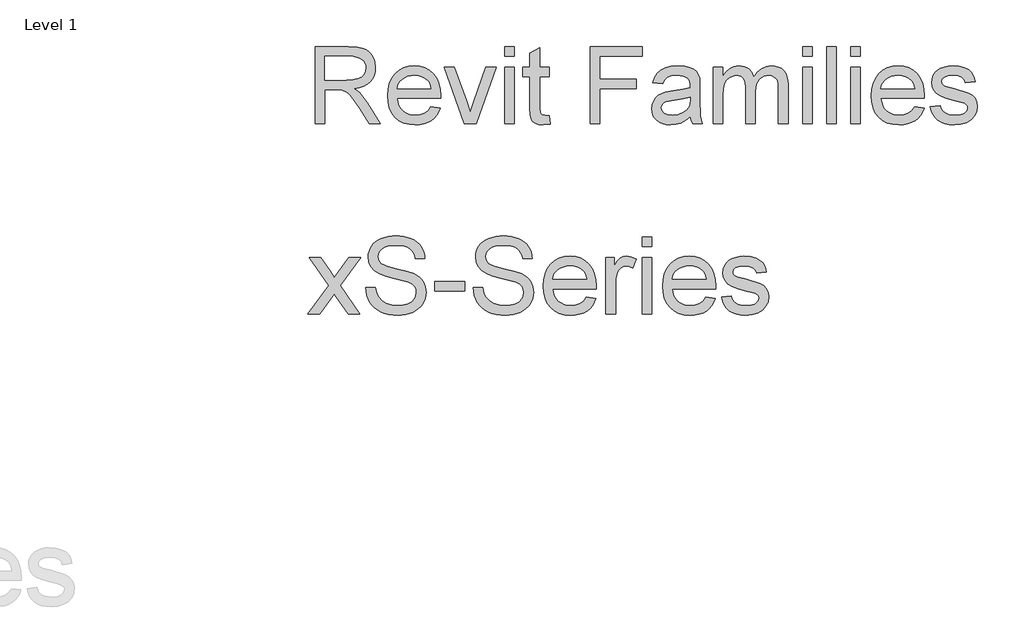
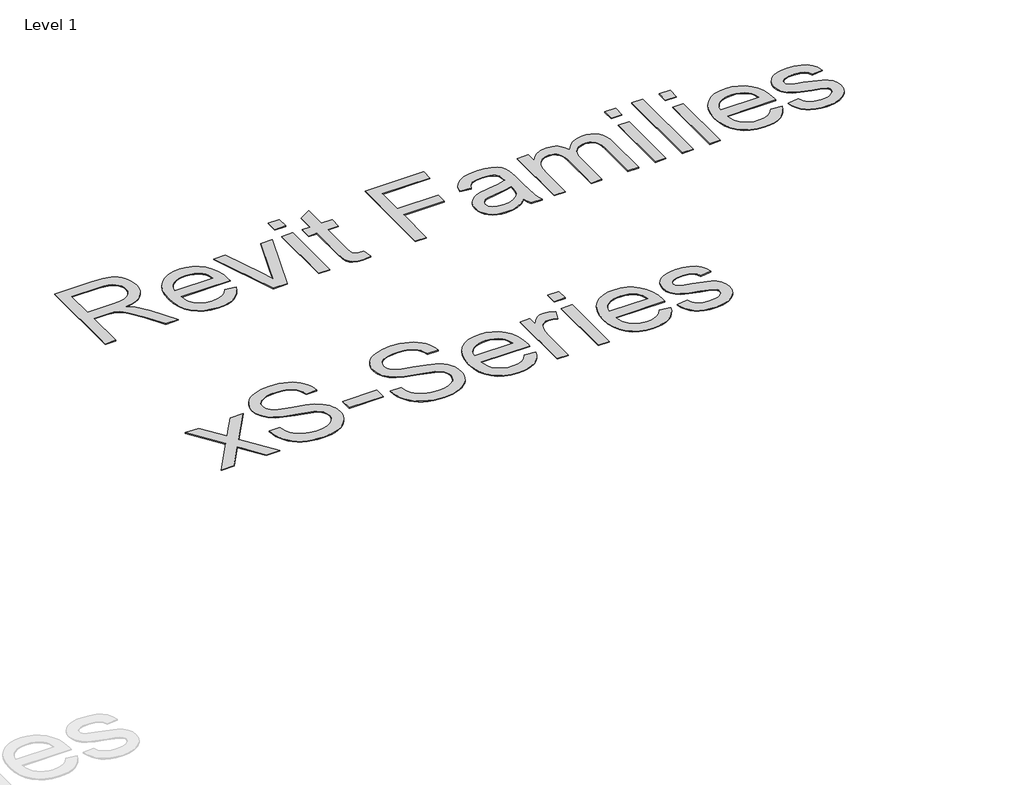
# One storey, part 11 of 12: 1 proxy.
"""IFC4 building model written with IfcOpenShell, lengths in millimetres."""

from ifc_helpers import new_model, si_unit, origin, origin_with_axes, place, context, project, spatial, polyline, outline, extrude, element, save

model = new_model("IFC4")

# Units and contexts
model_context = context("Model", 3, world=origin())
ifc_project = project(units=[si_unit("LENGTHUNIT", "METRE", prefix="MILLI")], contexts=[model_context])

# Site, building, storey
site = spatial("IfcSite", under=ifc_project)
building = spatial("IfcBuilding", under=site)
storey = spatial("IfcBuildingStorey", under=building, Name="Level 1", Elevation=0.0)

# Proxy
placement = place(None, origin())
element("IfcBuildingElementProxy", 1, Name="600mm Arial", ObjectType="600mm Arial", at=placement, inside=storey, context=model_context, shape_type="SweptSolid", body=[
    extrude(outline(polyline([(-11309.2935955, 22041.6162982), (-11309.2935955, 22632.385529), (-11054.7262878, 22632.385529), (-10986.3068167, 22628.401154), (-10936.5291724, 22616.448029), (-10917.3194369, 22606.9468271), (-10900.1469609, 22594.3807213), (-10885.0117446, 22578.7497117), (-10871.9137878, 22560.0537982), (-10861.3443768, 22539.2980891), (-10853.7947974, 22517.4876924), (-10847.755134, 22470.7028367), (-10850.2566364, 22440.3602886), (-10857.7611436, 22412.5057213), (-10870.2686556, 22387.1391347), (-10887.7791724, 22364.260529), (-10910.5180547, 22344.6000722), (-10938.7106628, 22328.8879328), (-10972.356997, 22317.1241107), (-11011.4570571, 22309.3086059), (-10987.1181148, 22293.4071636), (-10969.4859032, 22277.7220674), (-10909.630134, 22201.7124521), (-10811.1205186, 22041.6162982), (-10896.9378263, 22041.6162982), (-10973.8128263, 22164.0682213), (-11029.3416724, 22245.1259136), (-11049.9847013, 22268.7617309), (-11068.3560955, 22283.4191828), (-11103.4762878, 22297.4816828), (-11146.3128263, 22300.0778367), (-11235.4474417, 22300.0778367), (-11235.4474417, 22041.6162982), (-11309.2935955, 22041.6162982)]), holes=[polyline([(-11235.4474417, 22373.9239905), (-11070.1589801, 22373.9239905), (-11022.6890282, 22376.5381732), (-10985.8560955, 22384.3807213), (-10958.1277301, 22397.9744713), (-10937.9714801, 22417.8422597), (-10925.6938359, 22441.8747117), (-10921.6012878, 22467.9624521), (-10923.5529104, 22486.8476684), (-10929.4077782, 22503.9840867), (-10939.1658912, 22519.3717069), (-10952.8272494, 22533.010529), (-10970.7073575, 22544.1793992), (-10993.1217205, 22552.1571636), (-11020.0703383, 22556.9438222), (-11051.5532109, 22558.5393751), (-11235.4474417, 22558.5393751), (-11235.4474417, 22373.9239905)])]), origin_with_axes(), (0.0, 0.0, 1.0), 5.0),
    extrude(outline(polyline([(-10424.005134, 22170.8470674), (-10351.6012878, 22161.6162982), (-10362.7025498, 22132.6168992), (-10377.6890282, 22107.0610097), (-10396.5607229, 22084.9486299), (-10419.317634, 22066.2797597), (-10445.7253864, 22051.4510338), (-10475.5496051, 22040.8590867), (-10508.7902902, 22034.5039184), (-10545.4474417, 22032.385529), (-10591.2677542, 22036.0408775), (-10632.0940763, 22047.0069232), (-10667.926408, 22065.283666), (-10698.7647494, 22090.8711059), (-10723.5634273, 22123.0571035), (-10741.2767686, 22161.1295194), (-10751.9047734, 22205.0883535), (-10755.4474417, 22254.9336059), (-10751.8687157, 22306.4690626), (-10741.1325378, 22351.8927405), (-10723.238908, 22391.2046396), (-10698.1878263, 22424.4047597), (-10667.4306148, 22450.7809617), (-10632.4185955, 22469.6211059), (-10593.1517686, 22480.9251924), (-10549.630134, 22484.6932213), (-10507.5102422, 22480.9342069), (-10469.4197974, 22469.6571636), (-10435.3587998, 22450.8620915), (-10405.3272494, 22424.5489905), (-10380.8125258, 22391.4209857), (-10363.302009, 22352.1812021), (-10352.7956989, 22306.8296396), (-10349.2935955, 22255.3662982), (-10349.7262878, 22235.4624521), (-10681.6012878, 22235.4624521), (-10677.3239441, 22205.994303), (-10668.8188359, 22180.1860097), (-10656.0859633, 22158.0375722), (-10639.1253263, 22139.5489905), (-10618.8744248, 22124.9726684), (-10596.270759, 22114.5610097), (-10571.3143287, 22108.3140146), (-10544.005134, 22106.2316828), (-10504.7022494, 22110.0898559), (-10471.6012878, 22121.6643751), (-10444.7022494, 22141.6763944), (-10424.005134, 22170.8470674)]), holes=[polyline([(-10681.6012878, 22309.3086059), (-10423.1397494, 22309.3086059), (-10433.1277301, 22348.323029), (-10441.7184753, 22363.6655771), (-10452.7070571, 22376.2316828), (-10472.8452782, 22391.3759136), (-10495.7599417, 22402.1932213), (-10521.4510474, 22408.6836059), (-10549.9185955, 22410.8470674), (-10575.8846412, 22409.1208054), (-10599.6962398, 22403.9420194), (-10621.3533912, 22395.3107093), (-10640.8560955, 22383.2268751), (-10657.2217806, 22368.2494112), (-10669.4678744, 22350.9372117), (-10677.5943768, 22331.2902766), (-10681.6012878, 22309.3086059)])]), origin_with_axes(), (0.0, 0.0, 1.0), 5.0),
    extrude(outline(polyline([(-10169.005134, 22041.6162982), (-10321.6012878, 22475.4624521), (-10243.4282109, 22475.4624521), (-10150.9762878, 22215.5586059), (-10123.1397494, 22128.1547597), (-10095.880134, 22210.6547597), (-10002.8512878, 22475.4624521), (-9924.6782109, 22475.4624521), (-10075.3993648, 22041.6162982), (-10169.005134, 22041.6162982)])), origin_with_axes(), (0.0, 0.0, 1.0), 5.0),
    extrude(outline(polyline([(-9860.0628263, 22041.6162982), (-9860.0628263, 22475.4624521), (-9786.2166724, 22475.4624521), (-9786.2166724, 22041.6162982), (-9860.0628263, 22041.6162982)])), origin_with_axes(), (0.0, 0.0, 1.0), 5.0),
    extrude(outline(polyline([(-9860.0628263, 22558.5393751), (-9860.0628263, 22632.385529), (-9786.2166724, 22632.385529), (-9786.2166724, 22558.5393751), (-9860.0628263, 22558.5393751)])), origin_with_axes(), (0.0, 0.0, 1.0), 5.0),
    extrude(outline(polyline([(-9518.5243648, 22103.2028367), (-9509.2935955, 22039.4528367), (-9564.5339801, 22032.385529), (-9599.9786917, 22035.4504328), (-9626.4089801, 22044.6451444), (-9645.0868648, 22058.8158174), (-9657.2743648, 22076.8086059), (-9663.9810955, 22107.7100482), (-9666.2166724, 22160.6066828), (-9666.2166724, 22401.6162982), (-9721.6012878, 22401.6162982), (-9721.6012878, 22475.4624521), (-9666.2166724, 22475.4624521), (-9666.2166724, 22580.8951444), (-9592.3705186, 22624.3086059), (-9592.3705186, 22475.4624521), (-9518.5243648, 22475.4624521), (-9518.5243648, 22401.6162982), (-9592.3705186, 22401.6162982), (-9592.3705186, 22162.7701444), (-9588.4762878, 22124.6932213), (-9575.8560955, 22111.2076444), (-9565.2010474, 22107.4756732), (-9550.6878263, 22106.2316828), (-9518.5243648, 22103.2028367)])), origin_with_axes(), (0.0, 0.0, 1.0), 5.0),
    extrude(outline(polyline([(-9204.6782109, 22041.6162982), (-9204.6782109, 22632.385529), (-8807.755134, 22632.385529), (-8807.755134, 22558.5393751), (-9130.8320571, 22558.5393751), (-9130.8320571, 22383.1547597), (-8853.9089801, 22383.1547597), (-8853.9089801, 22309.3086059), (-9130.8320571, 22309.3086059), (-9130.8320571, 22041.6162982), (-9204.6782109, 22041.6162982)])), origin_with_axes(), (0.0, 0.0, 1.0), 5.0),
    extrude(outline(polyline([(-8438.5243648, 22097.0009136), (-8473.8068167, 22066.7485097), (-8510.1349417, 22046.9528367), (-8548.3380667, 22036.0273559), (-8589.2455186, 22032.385529), (-8622.1256268, 22034.5760338), (-8650.958259, 22041.1475482), (-8675.7434152, 22052.1000722), (-8696.4810955, 22067.4336059), (-8712.855795, 22086.1745915), (-8724.552009, 22107.3494713), (-8731.5697373, 22130.9582453), (-8733.9089801, 22157.0009136), (-8730.3753263, 22187.6138944), (-8719.7743648, 22215.4143751), (-8703.4222013, 22239.2124521), (-8682.6349417, 22257.8182213), (-8658.2058551, 22271.8807213), (-8630.9282109, 22282.0489905), (-8567.0339801, 22293.1547597), (-8491.5291724, 22304.8374521), (-8438.9570571, 22318.5393751), (-8438.5243648, 22334.9816828), (-8443.6084994, 22367.9384136), (-8449.9636676, 22380.1439424), (-8458.8609032, 22389.5009136), (-8474.239509, 22398.8398559), (-8492.9714801, 22405.510529), (-8540.4955186, 22410.8470674), (-8584.4859032, 22407.2953847), (-8615.2070571, 22396.6403367), (-8636.1565763, 22376.9348078), (-8650.8320571, 22346.2316828), (-8724.6782109, 22355.4624521), (-8711.8597013, 22395.8470674), (-8692.7310955, 22427.5778367), (-8665.5075378, 22451.8446636), (-8628.4041724, 22469.8374521), (-8583.0255667, 22480.979279), (-8530.9762878, 22484.6932213), (-8481.0544128, 22481.4119713), (-8441.4810955, 22471.5682213), (-8411.6433551, 22456.7665386), (-8390.9282109, 22438.6114905), (-8377.1902301, 22416.1655771), (-8368.2839801, 22388.4912982), (-8364.6782109, 22323.8759136), (-8364.6782109, 22232.0009136), (-8360.9282109, 22103.7076444), (-8355.3753263, 22071.994904), (-8346.2166724, 22041.6162982), (-8420.0628263, 22041.6162982), (-8431.8897494, 22067.2893751), (-8438.5243648, 22097.0009136)]), holes=[polyline([(-8438.5243648, 22244.6932213), (-8488.1397494, 22232.3975482), (-8557.6589801, 22222.0489905), (-8621.192634, 22210.0778367), (-8637.7250859, 22201.8927405), (-8649.9666724, 22190.6066828), (-8657.5387878, 22177.0850482), (-8660.0628263, 22162.1932213), (-8654.5640282, 22140.2340867), (-8638.067634, 22122.2412982), (-8610.9342205, 22110.2340867), (-8573.5243648, 22106.2316828), (-8533.8609032, 22110.6487501), (-8498.8128263, 22123.8999521), (-8470.3993648, 22143.4251924), (-8450.6397494, 22166.6643751), (-8441.8777301, 22190.6066828), (-8438.9570571, 22223.7797597), (-8438.5243648, 22244.6932213)])]), origin_with_axes(), (0.0, 0.0, 1.0), 5.0),
    extrude(outline(polyline([(-8263.1397494, 22041.6162982), (-8263.1397494, 22475.4624521), (-8189.2935955, 22475.4624521), (-8189.2935955, 22404.0682213), (-8167.0820571, 22436.8626924), (-8138.5243648, 22462.5537982), (-8104.5940763, 22479.1583655), (-8066.2647494, 22484.6932213), (-8025.1950378, 22479.0501924), (-8007.7160715, 22471.9964064), (-7992.2743648, 22462.1211059), (-7967.6830186, 22435.0237501), (-7951.6012878, 22398.8759136), (-7924.6842205, 22436.4209857), (-7893.9810955, 22463.2388944), (-7859.4919128, 22479.3296396), (-7821.2166724, 22484.6932213), (-7791.653872, 22482.4621516), (-7765.7058551, 22475.7689424), (-7743.372622, 22464.6135939), (-7724.6541724, 22448.9961059), (-7709.856997, 22428.73619), (-7699.2875859, 22403.6535578), (-7692.9459393, 22373.7482093), (-7690.8320571, 22339.0201444), (-7690.8320571, 22041.6162982), (-7764.6782109, 22041.6162982), (-7764.6782109, 22307.2893751), (-7766.3909513, 22344.1223078), (-7771.5291724, 22368.948029), (-7781.1565763, 22385.9492309), (-7796.3368648, 22399.3086059), (-7815.8621051, 22407.9624521), (-7838.5243648, 22410.8470674), (-7859.4513479, 22408.9991107), (-7878.5303744, 22403.4552405), (-7895.7614441, 22394.2154569), (-7911.1445571, 22381.2797597), (-7923.7962998, 22364.2695434), (-7932.833259, 22342.8062021), (-7938.2554345, 22316.8897357), (-7940.0628263, 22286.5201444), (-7940.0628263, 22041.6162982), (-8013.9089801, 22041.6162982), (-8013.9089801, 22315.510529), (-8018.1818167, 22357.2653367), (-8031.0003263, 22387.0489905), (-8040.9116845, 22397.4606492), (-8053.5544128, 22404.8975482), (-8068.9285114, 22409.3596876), (-8087.0339801, 22410.8470674), (-8115.4834994, 22406.8807213), (-8141.6974417, 22394.9816828), (-8163.3320571, 22375.4384136), (-8178.0435955, 22348.5393751), (-8186.4810955, 22311.2196636), (-8189.2935955, 22260.4143751), (-8189.2935955, 22041.6162982), (-8263.1397494, 22041.6162982)])), origin_with_axes(), (0.0, 0.0, 1.0), 5.0),
    extrude(outline(polyline([(-7580.0628263, 22041.6162982), (-7580.0628263, 22475.4624521), (-7506.2166724, 22475.4624521), (-7506.2166724, 22041.6162982), (-7580.0628263, 22041.6162982)])), origin_with_axes(), (0.0, 0.0, 1.0), 5.0),
    extrude(outline(polyline([(-7580.0628263, 22558.5393751), (-7580.0628263, 22632.385529), (-7506.2166724, 22632.385529), (-7506.2166724, 22558.5393751), (-7580.0628263, 22558.5393751)])), origin_with_axes(), (0.0, 0.0, 1.0), 5.0),
    extrude(outline(polyline([(-7395.4474417, 22041.6162982), (-7395.4474417, 22632.385529), (-7321.6012878, 22632.385529), (-7321.6012878, 22041.6162982), (-7395.4474417, 22041.6162982)])), origin_with_axes(), (0.0, 0.0, 1.0), 5.0),
    extrude(outline(polyline([(-7210.8320571, 22041.6162982), (-7210.8320571, 22475.4624521), (-7136.9859032, 22475.4624521), (-7136.9859032, 22041.6162982), (-7210.8320571, 22041.6162982)])), origin_with_axes(), (0.0, 0.0, 1.0), 5.0),
    extrude(outline(polyline([(-7210.8320571, 22558.5393751), (-7210.8320571, 22632.385529), (-7136.9859032, 22632.385529), (-7136.9859032, 22558.5393751), (-7210.8320571, 22558.5393751)])), origin_with_axes(), (0.0, 0.0, 1.0), 5.0),
    extrude(outline(polyline([(-6722.4666724, 22170.8470674), (-6650.0628263, 22161.6162982), (-6661.1640883, 22132.6168992), (-6676.1505667, 22107.0610097), (-6695.0222614, 22084.9486299), (-6717.7791724, 22066.2797597), (-6744.1869248, 22051.4510338), (-6774.0111436, 22040.8590867), (-6807.2518287, 22034.5039184), (-6843.9089801, 22032.385529), (-6889.7292926, 22036.0408775), (-6930.5556148, 22047.0069232), (-6966.3879465, 22065.283666), (-6997.2262878, 22090.8711059), (-7022.0249657, 22123.0571035), (-7039.7383071, 22161.1295194), (-7050.3663119, 22205.0883535), (-7053.9089801, 22254.9336059), (-7050.3302542, 22306.4690626), (-7039.5940763, 22351.8927405), (-7021.7004465, 22391.2046396), (-6996.6493648, 22424.4047597), (-6965.8921532, 22450.7809617), (-6930.880134, 22469.6211059), (-6891.6133071, 22480.9251924), (-6848.0916724, 22484.6932213), (-6805.9717806, 22480.9342069), (-6767.8813359, 22469.6571636), (-6733.8203383, 22450.8620915), (-6703.7887878, 22424.5489905), (-6679.2740643, 22391.4209857), (-6661.7635474, 22352.1812021), (-6651.2572373, 22306.8296396), (-6647.755134, 22255.3662982), (-6648.1878263, 22235.4624521), (-6980.0628263, 22235.4624521), (-6975.7854825, 22205.994303), (-6967.2803744, 22180.1860097), (-6954.5475018, 22158.0375722), (-6937.5868648, 22139.5489905), (-6917.3359633, 22124.9726684), (-6894.7322974, 22114.5610097), (-6869.7758672, 22108.3140146), (-6842.4666724, 22106.2316828), (-6803.1637878, 22110.0898559), (-6770.0628263, 22121.6643751), (-6743.1637878, 22141.6763944), (-6722.4666724, 22170.8470674)]), holes=[polyline([(-6980.0628263, 22309.3086059), (-6721.6012878, 22309.3086059), (-6731.5892686, 22348.323029), (-6740.1800138, 22363.6655771), (-6751.1685955, 22376.2316828), (-6771.3068167, 22391.3759136), (-6794.2214801, 22402.1932213), (-6819.9125859, 22408.6836059), (-6848.380134, 22410.8470674), (-6874.3461797, 22409.1208054), (-6898.1577782, 22403.9420194), (-6919.8149297, 22395.3107093), (-6939.317634, 22383.2268751), (-6955.6833191, 22368.2494112), (-6967.9294128, 22350.9372117), (-6976.0559152, 22331.2902766), (-6980.0628263, 22309.3086059)])]), origin_with_axes(), (0.0, 0.0, 1.0), 5.0),
    extrude(outline(polyline([(-6601.6012878, 22170.8470674), (-6527.755134, 22180.0778367), (-6523.2929946, 22163.2388944), (-6516.1084994, 22148.4912982), (-6506.2016484, 22135.8350482), (-6493.5724417, 22125.2701444), (-6478.1848215, 22116.9408174), (-6460.0027301, 22110.9912982), (-6415.255134, 22106.2316828), (-6371.0484032, 22110.5946636), (-6353.8669128, 22116.0483896), (-6339.9666724, 22123.6836059), (-6321.5772494, 22142.6499521), (-6315.4474417, 22164.6451444), (-6316.988908, 22174.6150963), (-6321.6133071, 22183.4672597), (-6340.1109032, 22197.8182213), (-6367.7671532, 22207.1932213), (-6416.1205186, 22218.8759136), (-6483.5123455, 22238.3650963), (-6527.3224417, 22255.0057213), (-6555.4654705, 22273.1607694), (-6575.8560955, 22297.1932213), (-6588.2419128, 22325.5706251), (-6592.3705186, 22356.760529), (-6589.0532109, 22385.3723078), (-6579.1012878, 22411.7845674), (-6563.4161917, 22434.9516347), (-6542.8993648, 22453.8278367), (-6522.5087398, 22465.7088463), (-6495.9522494, 22475.6787982), (-6465.2491244, 22482.4396155), (-6432.4185955, 22484.6932213), (-6384.3536917, 22481.0694232), (-6342.5628263, 22470.198029), (-6308.9570571, 22453.1427405), (-6285.4474417, 22430.9672597), (-6269.8705186, 22402.0309617), (-6260.0628263, 22364.6932213), (-6333.9089801, 22355.4624521), (-6343.2298936, 22378.7016347), (-6361.6734032, 22396.2076444), (-6389.4197974, 22407.1872117), (-6426.6493648, 22410.8470674), (-6469.0532109, 22407.3494713), (-6497.3224417, 22396.8566828), (-6513.223884, 22381.7124521), (-6518.5243648, 22364.260529), (-6516.3248455, 22352.9023559), (-6509.7262878, 22342.7701444), (-6498.4402301, 22333.7196636), (-6482.1782109, 22326.4720674), (-6418.5724417, 22310.7509136), (-6310.1830186, 22275.9912982), (-6281.5532109, 22259.3687021), (-6259.8464801, 22236.6162982), (-6246.1625859, 22207.6619713), (-6241.6012878, 22172.4336059), (-6246.9558551, 22136.0153367), (-6263.0195571, 22101.760529), (-6289.1794128, 22072.3554809), (-6324.8224417, 22050.4864905), (-6367.8753263, 22036.9107694), (-6416.2647494, 22032.385529), (-6456.0093407, 22034.5670194), (-6490.723884, 22041.1114905), (-6520.4083792, 22052.0189424), (-6545.0628263, 22067.2893751), (-6565.2010474, 22086.8506732), (-6581.3368648, 22110.6307213), (-6593.4702782, 22138.6295194), (-6601.6012878, 22170.8470674)])), origin_with_axes(), (0.0, 0.0, 1.0), 5.0),
    extrude(outline(polyline([(-11364.6782109, 20583.1547597), (-11206.8897494, 20801.2316828), (-11355.4474417, 21017.0009136), (-11266.6012878, 21017.0009136), (-11194.9185955, 20913.1547597), (-11161.4570571, 20864.1162982), (-11132.4666724, 20904.2124521), (-11050.8320571, 21017.0009136), (-10961.9859032, 21017.0009136), (-11118.0435955, 20801.2316828), (-10967.755134, 20583.1547597), (-11056.6012878, 20583.1547597), (-11147.0339801, 20714.260529), (-11163.6205186, 20738.2028367), (-11275.8320571, 20583.1547597), (-11364.6782109, 20583.1547597)])), origin_with_axes(), (0.0, 0.0, 1.0), 5.0),
    extrude(outline(polyline([(-10921.6012878, 20786.2316828), (-10847.755134, 20786.2316828), (-10839.2815763, 20745.2521155), (-10823.9570571, 20712.3134136), (-10800.0508071, 20686.1715867), (-10765.8320571, 20665.5826444), (-10724.005134, 20652.2232694), (-10677.2743648, 20647.7701444), (-10636.1325378, 20651.1415386), (-10600.1109032, 20661.2557213), (-10570.9222013, 20677.2653367), (-10550.2791724, 20698.323029), (-10538.0015282, 20722.4997117), (-10533.9089801, 20747.8662982), (-10536.973884, 20772.5838463), (-10546.1685955, 20793.948029), (-10564.8464801, 20812.1751924), (-10596.3609032, 20827.4816828), (-10703.8849417, 20855.6787982), (-10774.4678744, 20874.338654), (-10819.630134, 20892.0970674), (-10856.3909513, 20916.9408174), (-10882.442634, 20947.0489905), (-10897.9654705, 20981.7725482), (-10903.1397494, 21020.4624521), (-10901.5396893, 21042.4531372), (-10896.739509, 21063.713654), (-10888.7392085, 21084.2440025), (-10877.5387878, 21104.0441828), (-10863.2644489, 21122.307404), (-10846.0423936, 21138.2268751), (-10825.872622, 21151.8025963), (-10802.755134, 21163.0345674), (-10750.7959994, 21178.1247117), (-10693.2839801, 21183.1547597), (-10630.9762878, 21177.8903367), (-10576.4570571, 21162.0970674), (-10552.6048936, 21150.3332453), (-10531.6734032, 21136.0994713), (-10513.6625859, 21119.3957453), (-10498.5724417, 21100.2220674), (-10486.520158, 21079.1373319), (-10477.6229224, 21056.7004328), (-10471.8807349, 21032.9113703), (-10469.2935955, 21007.7701444), (-10543.1397494, 21007.7701444), (-10548.0796532, 21031.3338463), (-10556.6974417, 21051.8326444), (-10568.9931148, 21069.2665386), (-10584.9666724, 21083.635529), (-10604.9155907, 21094.8675001), (-10629.1373455, 21102.8903367), (-10657.6319369, 21107.7040386), (-10690.3993648, 21109.3086059), (-10724.2124657, 21107.7220674), (-10753.1036917, 21102.9624521), (-10777.0730426, 21095.0297597), (-10796.1205186, 21083.9239905), (-10810.6337398, 21070.5736299), (-10821.0003263, 21055.9071636), (-10827.2202782, 21039.9245915), (-10829.2935955, 21022.6259136), (-10823.4161917, 20994.2485097), (-10805.7839801, 20971.4239905), (-10789.5940763, 20961.2737501), (-10764.1012878, 20951.0153367), (-10685.2070571, 20930.1739905), (-10603.7887878, 20910.3783174), (-10554.5339801, 20893.1066828), (-10512.4366244, 20866.3158174), (-10496.1610835, 20850.5676203), (-10483.067634, 20833.2509136), (-10473.0030306, 20814.4558415), (-10465.8140282, 20794.2725482), (-10460.0628263, 20749.7412982), (-10461.7169729, 20726.6418391), (-10466.6794128, 20704.2184617), (-10474.950146, 20682.471166), (-10486.5291724, 20661.3999521), (-10501.2136676, 20641.8206251), (-10518.8008071, 20624.5489905), (-10539.2905907, 20609.5850482), (-10562.6830186, 20596.9287982), (-10588.2975018, 20586.8641948), (-10615.4534513, 20579.6751924), (-10674.3897494, 20573.9239905), (-10712.1646893, 20575.4744713), (-10746.739509, 20580.1259136), (-10778.1142085, 20587.8783174), (-10806.2887878, 20598.7316828), (-10831.434521, 20612.7040386), (-10853.7226821, 20629.8134136), (-10873.153271, 20650.0598078), (-10889.7262878, 20673.4432213), (-10903.0766484, 20699.2064424), (-10912.8392686, 20726.5922597), (-10919.0141484, 20755.6006732), (-10921.6012878, 20786.2316828)])), origin_with_axes(), (0.0, 0.0, 1.0), 5.0),
    extrude(outline(polyline([(-10395.4474417, 20758.5393751), (-10395.4474417, 20832.385529), (-10164.6782109, 20832.385529), (-10164.6782109, 20758.5393751), (-10395.4474417, 20758.5393751)])), origin_with_axes(), (0.0, 0.0, 1.0), 5.0),
    extrude(outline(polyline([(-10100.0628263, 20786.2316828), (-10026.2166724, 20786.2316828), (-10017.7431148, 20745.2521155), (-10002.4185955, 20712.3134136), (-9978.5123455, 20686.1715867), (-9944.2935955, 20665.5826444), (-9902.4666724, 20652.2232694), (-9855.7359032, 20647.7701444), (-9814.5940763, 20651.1415386), (-9778.5724417, 20661.2557213), (-9749.3837398, 20677.2653367), (-9728.7407109, 20698.323029), (-9716.4630667, 20722.4997117), (-9712.3705186, 20747.8662982), (-9715.4354224, 20772.5838463), (-9724.630134, 20793.948029), (-9743.3080186, 20812.1751924), (-9774.8224417, 20827.4816828), (-9882.3464801, 20855.6787982), (-9952.9294128, 20874.338654), (-9998.0916724, 20892.0970674), (-10034.8524898, 20916.9408174), (-10060.9041724, 20947.0489905), (-10076.427009, 20981.7725482), (-10081.6012878, 21020.4624521), (-10080.0012277, 21042.4531372), (-10075.2010474, 21063.713654), (-10067.200747, 21084.2440025), (-10056.0003263, 21104.0441828), (-10041.7259873, 21122.307404), (-10024.5039321, 21138.2268751), (-10004.3341604, 21151.8025963), (-9981.2166724, 21163.0345674), (-9929.2575378, 21178.1247117), (-9871.7455186, 21183.1547597), (-9809.4378263, 21177.8903367), (-9754.9185955, 21162.0970674), (-9731.0664321, 21150.3332453), (-9710.1349417, 21136.0994713), (-9692.1241244, 21119.3957453), (-9677.0339801, 21100.2220674), (-9664.9816965, 21079.1373319), (-9656.0844609, 21056.7004328), (-9650.3422734, 21032.9113703), (-9647.755134, 21007.7701444), (-9721.6012878, 21007.7701444), (-9726.5411917, 21031.3338463), (-9735.1589801, 21051.8326444), (-9747.4546532, 21069.2665386), (-9763.4282109, 21083.635529), (-9783.3771292, 21094.8675001), (-9807.598884, 21102.8903367), (-9836.0934753, 21107.7040386), (-9868.8609032, 21109.3086059), (-9902.6740042, 21107.7220674), (-9931.5652301, 21102.9624521), (-9955.5345811, 21095.0297597), (-9974.5820571, 21083.9239905), (-9989.0952782, 21070.5736299), (-9999.4618648, 21055.9071636), (-10005.6818167, 21039.9245915), (-10007.755134, 21022.6259136), (-10001.8777301, 20994.2485097), (-9984.2455186, 20971.4239905), (-9968.0556148, 20961.2737501), (-9942.5628263, 20951.0153367), (-9863.6685955, 20930.1739905), (-9782.2503263, 20910.3783174), (-9732.9955186, 20893.1066828), (-9690.8981628, 20866.3158174), (-9674.622622, 20850.5676203), (-9661.5291724, 20833.2509136), (-9651.4645691, 20814.4558415), (-9644.2755667, 20794.2725482), (-9638.5243648, 20749.7412982), (-9640.1785114, 20726.6418391), (-9645.1409513, 20704.2184617), (-9653.4116845, 20682.471166), (-9664.9907109, 20661.3999521), (-9679.6752061, 20641.8206251), (-9697.2623455, 20624.5489905), (-9717.7521292, 20609.5850482), (-9741.1445571, 20596.9287982), (-9766.7590402, 20586.8641948), (-9793.9149898, 20579.6751924), (-9852.8512878, 20573.9239905), (-9890.6262277, 20575.4744713), (-9925.2010474, 20580.1259136), (-9956.575747, 20587.8783174), (-9984.7503263, 20598.7316828), (-10009.8960595, 20612.7040386), (-10032.1842205, 20629.8134136), (-10051.6148095, 20650.0598078), (-10068.1878263, 20673.4432213), (-10081.5381869, 20699.2064424), (-10091.3008071, 20726.5922597), (-10097.4756869, 20755.6006732), (-10100.0628263, 20786.2316828)])), origin_with_axes(), (0.0, 0.0, 1.0), 5.0),
    extrude(outline(polyline([(-9233.2359032, 20712.385529), (-9160.8320571, 20703.1547597), (-9171.9333191, 20674.1553607), (-9186.9197974, 20648.5994713), (-9205.7914922, 20626.4870915), (-9228.5484032, 20607.8182213), (-9254.9561556, 20592.9894953), (-9284.7803744, 20582.3975482), (-9318.0210595, 20576.0423799), (-9354.6782109, 20573.9239905), (-9400.4985234, 20577.5793391), (-9441.3248455, 20588.5453847), (-9477.1571773, 20606.8221275), (-9507.9955186, 20632.4095674), (-9532.7941965, 20664.595565), (-9550.5075378, 20702.6679809), (-9561.1355426, 20746.626815), (-9564.6782109, 20796.4720674), (-9561.0994849, 20848.0075242), (-9550.3633071, 20893.4312021), (-9532.4696773, 20932.7431011), (-9507.4185955, 20965.9432213), (-9476.661384, 20992.3194232), (-9441.6493648, 21011.1595674), (-9402.3825378, 21022.463654), (-9358.8609032, 21026.2316828), (-9316.7410114, 21022.4726684), (-9278.6505667, 21011.1956251), (-9244.5895691, 20992.400553), (-9214.5580186, 20966.0874521), (-9190.043295, 20932.9594472), (-9172.5327782, 20893.7196636), (-9162.0264681, 20848.3681011), (-9158.5243648, 20796.9047597), (-9158.9570571, 20777.0009136), (-9490.8320571, 20777.0009136), (-9486.5547133, 20747.5327646), (-9478.0496051, 20721.7244713), (-9465.3167325, 20699.5760338), (-9448.3560955, 20681.0874521), (-9428.1051941, 20666.5111299), (-9405.5015282, 20656.0994713), (-9380.5450979, 20649.8524761), (-9353.2359032, 20647.7701444), (-9313.9330186, 20651.6283174), (-9280.8320571, 20663.2028367), (-9253.9330186, 20683.2148559), (-9233.2359032, 20712.385529)]), holes=[polyline([(-9490.8320571, 20850.8470674), (-9232.3705186, 20850.8470674), (-9242.3584994, 20889.8614905), (-9250.9492446, 20905.2040386), (-9261.9378263, 20917.7701444), (-9282.0760474, 20932.9143751), (-9304.9907109, 20943.7316828), (-9330.6818167, 20950.2220674), (-9359.1493648, 20952.385529), (-9385.1154104, 20950.659267), (-9408.927009, 20945.4804809), (-9430.5841604, 20936.8491708), (-9450.0868648, 20924.7653367), (-9466.4525498, 20909.7878727), (-9478.6986436, 20892.4756732), (-9486.825146, 20872.8287381), (-9490.8320571, 20850.8470674)])]), origin_with_axes(), (0.0, 0.0, 1.0), 5.0),
    extrude(outline(polyline([(-9084.6782109, 20583.1547597), (-9084.6782109, 21017.0009136), (-9020.0628263, 21017.0009136), (-9020.0628263, 20952.8182213), (-8996.192634, 20990.0297597), (-8974.1974417, 21011.9528367), (-8952.130134, 21022.6619713), (-8928.0435955, 21026.2316828), (-8891.2647494, 21020.5345674), (-8853.9089801, 21003.4432213), (-8878.5724417, 20937.2412982), (-8904.5339801, 20948.5994713), (-8930.4955186, 20952.385529), (-8952.5447974, 20948.7437021), (-8972.2503263, 20937.8182213), (-8988.1697974, 20920.4384136), (-8998.8609032, 20897.4336059), (-9007.8392686, 20856.1836059), (-9010.8320571, 20811.1836059), (-9010.8320571, 20583.1547597), (-9084.6782109, 20583.1547597)])), origin_with_axes(), (0.0, 0.0, 1.0), 5.0),
    extrude(outline(polyline([(-8807.755134, 20583.1547597), (-8807.755134, 21017.0009136), (-8733.9089801, 21017.0009136), (-8733.9089801, 20583.1547597), (-8807.755134, 20583.1547597)])), origin_with_axes(), (0.0, 0.0, 1.0), 5.0),
    extrude(outline(polyline([(-8807.755134, 21100.0778367), (-8807.755134, 21173.9239905), (-8733.9089801, 21173.9239905), (-8733.9089801, 21100.0778367), (-8807.755134, 21100.0778367)])), origin_with_axes(), (0.0, 0.0, 1.0), 5.0),
    extrude(outline(polyline([(-8319.3897494, 20712.385529), (-8246.9859032, 20703.1547597), (-8258.0871652, 20674.1553607), (-8273.0736436, 20648.5994713), (-8291.9453383, 20626.4870915), (-8314.7022494, 20607.8182213), (-8341.1100018, 20592.9894953), (-8370.9342205, 20582.3975482), (-8404.1749056, 20576.0423799), (-8440.8320571, 20573.9239905), (-8486.6523696, 20577.5793391), (-8527.4786917, 20588.5453847), (-8563.3110234, 20606.8221275), (-8594.1493648, 20632.4095674), (-8618.9480426, 20664.595565), (-8636.661384, 20702.6679809), (-8647.2893888, 20746.626815), (-8650.8320571, 20796.4720674), (-8647.2533311, 20848.0075242), (-8636.5171532, 20893.4312021), (-8618.6235234, 20932.7431011), (-8593.5724417, 20965.9432213), (-8562.8152301, 20992.3194232), (-8527.8032109, 21011.1595674), (-8488.536384, 21022.463654), (-8445.0147494, 21026.2316828), (-8402.8948575, 21022.4726684), (-8364.8044128, 21011.1956251), (-8330.7434152, 20992.400553), (-8300.7118648, 20966.0874521), (-8276.1971412, 20932.9594472), (-8258.6866244, 20893.7196636), (-8248.1803143, 20848.3681011), (-8244.6782109, 20796.9047597), (-8245.1109032, 20777.0009136), (-8576.9859032, 20777.0009136), (-8572.7085595, 20747.5327646), (-8564.2034513, 20721.7244713), (-8551.4705787, 20699.5760338), (-8534.5099417, 20681.0874521), (-8514.2590402, 20666.5111299), (-8491.6553744, 20656.0994713), (-8466.6989441, 20649.8524761), (-8439.3897494, 20647.7701444), (-8400.0868648, 20651.6283174), (-8366.9859032, 20663.2028367), (-8340.0868648, 20683.2148559), (-8319.3897494, 20712.385529)]), holes=[polyline([(-8576.9859032, 20850.8470674), (-8318.5243648, 20850.8470674), (-8328.5123455, 20889.8614905), (-8337.1030907, 20905.2040386), (-8348.0916724, 20917.7701444), (-8368.2298936, 20932.9143751), (-8391.1445571, 20943.7316828), (-8416.8356628, 20950.2220674), (-8445.3032109, 20952.385529), (-8471.2692566, 20950.659267), (-8495.0808551, 20945.4804809), (-8516.7380066, 20936.8491708), (-8536.2407109, 20924.7653367), (-8552.606396, 20909.7878727), (-8564.8524898, 20892.4756732), (-8572.9789922, 20872.8287381), (-8576.9859032, 20850.8470674)])]), origin_with_axes(), (0.0, 0.0, 1.0), 5.0),
    extrude(outline(polyline([(-8198.5243648, 20712.385529), (-8124.6782109, 20721.6162982), (-8120.2160715, 20704.7773559), (-8113.0315763, 20690.0297597), (-8103.1247253, 20677.3735097), (-8090.4955186, 20666.8086059), (-8075.1078984, 20658.479279), (-8056.9258071, 20652.5297597), (-8012.1782109, 20647.7701444), (-7967.9714801, 20652.1331251), (-7950.7899898, 20657.5868511), (-7936.8897494, 20665.2220674), (-7918.5003263, 20684.1884136), (-7912.3705186, 20706.1836059), (-7913.9119849, 20716.1535578), (-7918.536384, 20725.0057213), (-7937.0339801, 20739.3566828), (-7964.6902301, 20748.7316828), (-8013.0435955, 20760.4143751), (-8080.4354224, 20779.9035578), (-8124.2455186, 20796.5441828), (-8152.3885474, 20814.6992309), (-8172.7791724, 20838.7316828), (-8185.1649898, 20867.1090867), (-8189.2935955, 20898.2989905), (-8185.9762878, 20926.9107694), (-8176.0243648, 20953.323029), (-8160.3392686, 20976.4900963), (-8139.8224417, 20995.3662982), (-8119.4318167, 21007.2473078), (-8092.8753263, 21017.2172597), (-8062.1722013, 21023.9780771), (-8029.3416724, 21026.2316828), (-7981.2767686, 21022.6078847), (-7939.4859032, 21011.7364905), (-7905.880134, 20994.6812021), (-7882.3705186, 20972.5057213), (-7866.7935955, 20943.5694232), (-7856.9859032, 20906.2316828), (-7930.8320571, 20897.0009136), (-7940.1529705, 20920.2400963), (-7958.5964801, 20937.7461059), (-7986.3428744, 20948.7256732), (-8023.5724417, 20952.385529), (-8065.9762878, 20948.8879328), (-8094.2455186, 20938.3951444), (-8110.1469609, 20923.2509136), (-8115.4474417, 20905.7989905), (-8113.2479224, 20894.4408174), (-8106.6493648, 20884.3086059), (-8095.3633071, 20875.2581251), (-8079.1012878, 20868.010529), (-8015.4955186, 20852.2893751), (-7907.1060955, 20817.5297597), (-7878.4762878, 20800.9071636), (-7856.7695571, 20778.1547597), (-7843.0856628, 20749.2004328), (-7838.5243648, 20713.9720674), (-7843.8789321, 20677.5537982), (-7859.942634, 20643.2989905), (-7886.1024898, 20613.8939424), (-7921.7455186, 20592.0249521), (-7964.7984032, 20578.4492309), (-8013.1878263, 20573.9239905), (-8052.9324176, 20576.1054809), (-8087.6469609, 20582.6499521), (-8117.3314561, 20593.557404), (-8141.9859032, 20608.8278367), (-8162.1241244, 20628.3891347), (-8178.2599417, 20652.1691828), (-8190.3933551, 20680.1679809), (-8198.5243648, 20712.385529)])), origin_with_axes(), (0.0, 0.0, 1.0), 5.0),
])

save(model, "model.ifc")
